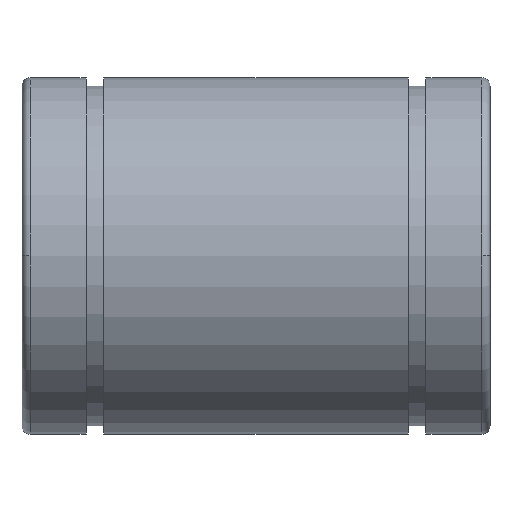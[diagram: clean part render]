
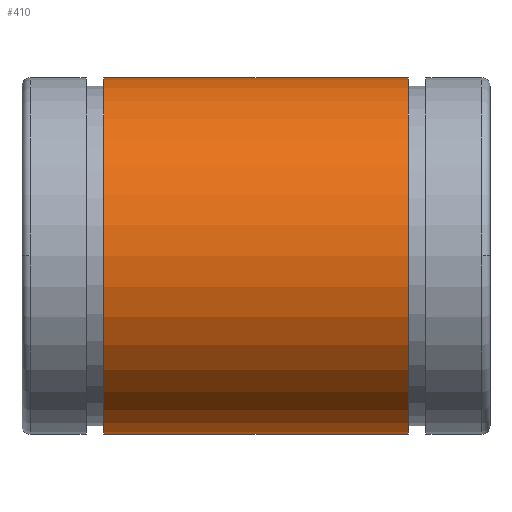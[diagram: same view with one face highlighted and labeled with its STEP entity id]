
A CAD part, top view. The second image highlights one B-rep face of the part: STEP entity #410.
In plain terms, the highlighted cylindrical face has radius 16 mm (diameter 32 mm), a partial arc.
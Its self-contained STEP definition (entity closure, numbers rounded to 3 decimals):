
#350 = PLANE('',#351);
#351 = AXIS2_PLACEMENT_3D('',#352,#353,#354);
#352 = CARTESIAN_POINT('',(13.65,15.625,0.));
#353 = DIRECTION('',(1.,0.,0.));
#354 = DIRECTION('',(-0.,1.,0.));
#410 = ADVANCED_FACE('',(#411),#425,.T.);
#411 = FACE_BOUND('',#412,.T.);
#412 = EDGE_LOOP('',(#413,#448,#481,#504));
#413 = ORIENTED_EDGE('',*,*,#414,.F.);
#414 = EDGE_CURVE('',#415,#417,#419,.T.);
#415 = VERTEX_POINT('',#416);
#416 = CARTESIAN_POINT('',(-13.65,16.,0.));
#417 = VERTEX_POINT('',#418);
#418 = CARTESIAN_POINT('',(13.65,16.,0.));
#419 = SURFACE_CURVE('',#420,(#424,#436),.PCURVE_S1.);
#420 = LINE('',#421,#422);
#421 = CARTESIAN_POINT('',(0.,16.,0.));
#422 = VECTOR('',#423,1.);
#423 = DIRECTION('',(1.,0.,0.));
#424 = PCURVE('',#425,#430);
#425 = CYLINDRICAL_SURFACE('',#426,16.);
#426 = AXIS2_PLACEMENT_3D('',#427,#428,#429);
#427 = CARTESIAN_POINT('',(0.,0.,0.));
#428 = DIRECTION('',(1.,0.,0.));
#429 = DIRECTION('',(-0.,1.,0.));
#430 = DEFINITIONAL_REPRESENTATION('',(#431),#435);
#431 = LINE('',#432,#433);
#432 = CARTESIAN_POINT('',(0.,0.));
#433 = VECTOR('',#434,1.);
#434 = DIRECTION('',(0.,1.));
#435 = ( GEOMETRIC_REPRESENTATION_CONTEXT(2) 
PARAMETRIC_REPRESENTATION_CONTEXT() REPRESENTATION_CONTEXT('2D SPACE',''
  ) );
#436 = PCURVE('',#437,#442);
#437 = CYLINDRICAL_SURFACE('',#438,16.);
#438 = AXIS2_PLACEMENT_3D('',#439,#440,#441);
#439 = CARTESIAN_POINT('',(0.,0.,0.));
#440 = DIRECTION('',(1.,0.,0.));
#441 = DIRECTION('',(-0.,1.,0.));
#442 = DEFINITIONAL_REPRESENTATION('',(#443),#447);
#443 = LINE('',#444,#445);
#444 = CARTESIAN_POINT('',(6.283,0.));
#445 = VECTOR('',#446,1.);
#446 = DIRECTION('',(0.,1.));
#447 = ( GEOMETRIC_REPRESENTATION_CONTEXT(2) 
PARAMETRIC_REPRESENTATION_CONTEXT() REPRESENTATION_CONTEXT('2D SPACE',''
  ) );
#448 = ORIENTED_EDGE('',*,*,#449,.T.);
#449 = EDGE_CURVE('',#415,#450,#452,.T.);
#450 = VERTEX_POINT('',#451);
#451 = CARTESIAN_POINT('',(-13.65,-16.,0.));
#452 = SURFACE_CURVE('',#453,(#458,#465),.PCURVE_S1.);
#453 = CIRCLE('',#454,16.);
#454 = AXIS2_PLACEMENT_3D('',#455,#456,#457);
#455 = CARTESIAN_POINT('',(-13.65,0.,0.));
#456 = DIRECTION('',(1.,0.,0.));
#457 = DIRECTION('',(-0.,1.,0.));
#458 = PCURVE('',#425,#459);
#459 = DEFINITIONAL_REPRESENTATION('',(#460),#464);
#460 = LINE('',#461,#462);
#461 = CARTESIAN_POINT('',(0.,-13.65));
#462 = VECTOR('',#463,1.);
#463 = DIRECTION('',(1.,0.));
#464 = ( GEOMETRIC_REPRESENTATION_CONTEXT(2) 
PARAMETRIC_REPRESENTATION_CONTEXT() REPRESENTATION_CONTEXT('2D SPACE',''
  ) );
#465 = PCURVE('',#466,#471);
#466 = PLANE('',#467);
#467 = AXIS2_PLACEMENT_3D('',#468,#469,#470);
#468 = CARTESIAN_POINT('',(-13.65,15.625,0.));
#469 = DIRECTION('',(-1.,-0.,0.));
#470 = DIRECTION('',(0.,-1.,-0.));
#471 = DEFINITIONAL_REPRESENTATION('',(#472),#480);
#472 = ( BOUNDED_CURVE() B_SPLINE_CURVE(2,(#473,#474,#475,#476,#477,#478
,#479),.UNSPECIFIED.,.T.,.F.) B_SPLINE_CURVE_WITH_KNOTS((1,2,2,2,2,1),(
    -2.094,0.,2.094,4.189,6.283,
8.378),.UNSPECIFIED.) CURVE() GEOMETRIC_REPRESENTATION_ITEM() 
RATIONAL_B_SPLINE_CURVE((1.,0.5,1.,0.5,1.,0.5,1.)) REPRESENTATION_ITEM(
  '') );
#473 = CARTESIAN_POINT('',(-0.375,0.));
#474 = CARTESIAN_POINT('',(-0.375,27.713));
#475 = CARTESIAN_POINT('',(23.625,13.856));
#476 = CARTESIAN_POINT('',(47.625,0.));
#477 = CARTESIAN_POINT('',(23.625,-13.856));
#478 = CARTESIAN_POINT('',(-0.375,-27.713));
#479 = CARTESIAN_POINT('',(-0.375,0.));
#480 = ( GEOMETRIC_REPRESENTATION_CONTEXT(2) 
PARAMETRIC_REPRESENTATION_CONTEXT() REPRESENTATION_CONTEXT('2D SPACE',''
  ) );
#481 = ORIENTED_EDGE('',*,*,#482,.F.);
#482 = EDGE_CURVE('',#483,#450,#485,.T.);
#483 = VERTEX_POINT('',#484);
#484 = CARTESIAN_POINT('',(13.65,-16.,0.));
#485 = SURFACE_CURVE('',#486,(#490,#497),.PCURVE_S1.);
#486 = LINE('',#487,#488);
#487 = CARTESIAN_POINT('',(0.,-16.,0.));
#488 = VECTOR('',#489,1.);
#489 = DIRECTION('',(-1.,-0.,-0.));
#490 = PCURVE('',#425,#491);
#491 = DEFINITIONAL_REPRESENTATION('',(#492),#496);
#492 = LINE('',#493,#494);
#493 = CARTESIAN_POINT('',(3.142,0.));
#494 = VECTOR('',#495,1.);
#495 = DIRECTION('',(0.,-1.));
#496 = ( GEOMETRIC_REPRESENTATION_CONTEXT(2) 
PARAMETRIC_REPRESENTATION_CONTEXT() REPRESENTATION_CONTEXT('2D SPACE',''
  ) );
#497 = PCURVE('',#437,#498);
#498 = DEFINITIONAL_REPRESENTATION('',(#499),#503);
#499 = LINE('',#500,#501);
#500 = CARTESIAN_POINT('',(3.142,0.));
#501 = VECTOR('',#502,1.);
#502 = DIRECTION('',(0.,-1.));
#503 = ( GEOMETRIC_REPRESENTATION_CONTEXT(2) 
PARAMETRIC_REPRESENTATION_CONTEXT() REPRESENTATION_CONTEXT('2D SPACE',''
  ) );
#504 = ORIENTED_EDGE('',*,*,#505,.F.);
#505 = EDGE_CURVE('',#417,#483,#506,.T.);
#506 = SURFACE_CURVE('',#507,(#512,#519),.PCURVE_S1.);
#507 = CIRCLE('',#508,16.);
#508 = AXIS2_PLACEMENT_3D('',#509,#510,#511);
#509 = CARTESIAN_POINT('',(13.65,0.,0.));
#510 = DIRECTION('',(1.,0.,0.));
#511 = DIRECTION('',(-0.,1.,0.));
#512 = PCURVE('',#425,#513);
#513 = DEFINITIONAL_REPRESENTATION('',(#514),#518);
#514 = LINE('',#515,#516);
#515 = CARTESIAN_POINT('',(0.,13.65));
#516 = VECTOR('',#517,1.);
#517 = DIRECTION('',(1.,0.));
#518 = ( GEOMETRIC_REPRESENTATION_CONTEXT(2) 
PARAMETRIC_REPRESENTATION_CONTEXT() REPRESENTATION_CONTEXT('2D SPACE',''
  ) );
#519 = PCURVE('',#350,#520);
#520 = DEFINITIONAL_REPRESENTATION('',(#521),#525);
#521 = CIRCLE('',#522,16.);
#522 = AXIS2_PLACEMENT_2D('',#523,#524);
#523 = CARTESIAN_POINT('',(-15.625,0.));
#524 = DIRECTION('',(1.,0.));
#525 = ( GEOMETRIC_REPRESENTATION_CONTEXT(2) 
PARAMETRIC_REPRESENTATION_CONTEXT() REPRESENTATION_CONTEXT('2D SPACE',''
  ) );
